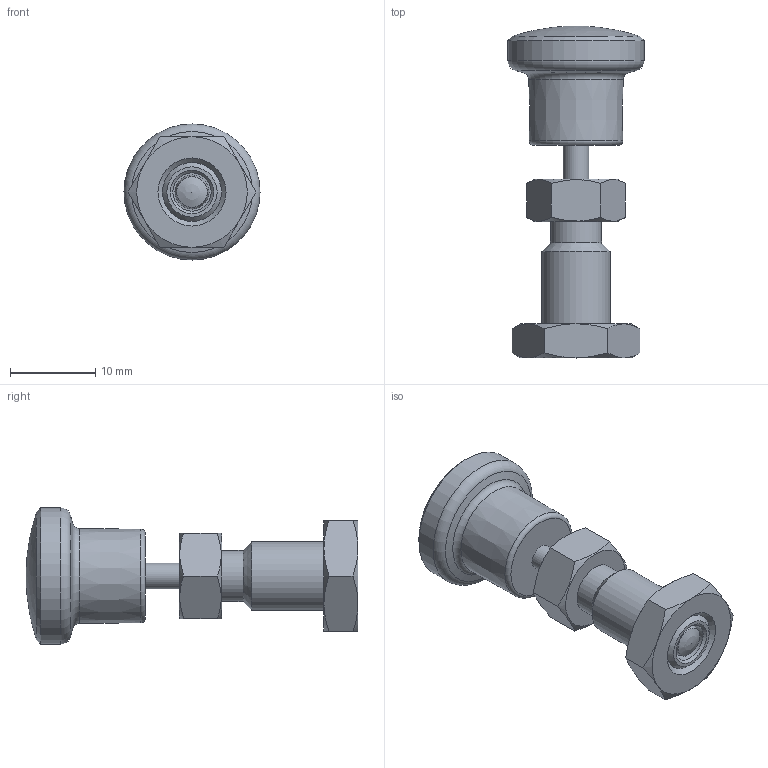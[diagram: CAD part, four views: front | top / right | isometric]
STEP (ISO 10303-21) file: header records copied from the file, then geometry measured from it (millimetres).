
FILE_DESCRIPTION( ( 'STEP AP203' ), '1' );
FILE_NAME( 'C:/Temp/Ganter_Step_05_03_2020/data/3_1/gn817/gn817_ni-rastbolzen_rot/Stainless Steel-Indexing plunger GN 817-4-4-BK-NI-RT (activated-0).stp', '2020-03-12T09:00:24', ( 'License CC BY-ND 4.0' ), ( 'CADENAS' ), ' ', 'PARTsolutions', ' ' );
FILE_SCHEMA( ( 'CONFIG_CONTROL_DESIGN' ) );
Length unit declared in the file: millimetre
Products named in the file (5): Stainless Steel-Indexing plunger GN 817-4-4-BK-NI-RT (activated-0); _Stainless steel-Indexing plunger GN 817-4-4-BK-NI-RT (activated-0)-d; _Stainless steel-Indexing plunger GN 817-4-4-B-NI-RT-2; _Stainless Steel Indexing plunger GN 817-4-4-B-NI-RT-1; _Stainless steel-Indexing plunger GN 817-4-4-BK-NI-RT (deactivated-0)-3
Assembly tree (4 placements, depth 2):
  Stainless Steel-Indexing plunger GN 817-4-4-BK-NI-RT (activated-0)
    _Stainless steel-Indexing plunger GN 817-4-4-BK-NI-RT (activated-0)-d
    _Stainless steel-Indexing plunger GN 817-4-4-B-NI-RT-2
    _Stainless Steel Indexing plunger GN 817-4-4-B-NI-RT-1
    _Stainless steel-Indexing plunger GN 817-4-4-BK-NI-RT (deactivated-0)-3
Bounding box: 16 x 39 x 16 mm (x, y, z)
Volume: 3340.5 mm3; surface area: 2615.2 mm2
Topology: 3 solids, 3 shells, 61 faces, 125 edges, 74 vertices
Faces by surface type: cone 24, plane 21, cylinder 9, torus 5, bspline 1, sphere 1
Full cylindrical faces by diameter (mm): 3 x2, 4 x1, 4.5 x2, 6 x1, 6.917 x1, 8 x1, 16 x1
Entity records: 1791 total; most frequent: CARTESIAN_POINT 504, DIRECTION 234, ORIENTED_EDGE 188, AXIS2_PLACEMENT_3D 111, EDGE_LOOP 96, EDGE_CURVE 94, FACE_OUTER_BOUND 75, VERTEX_POINT 72
